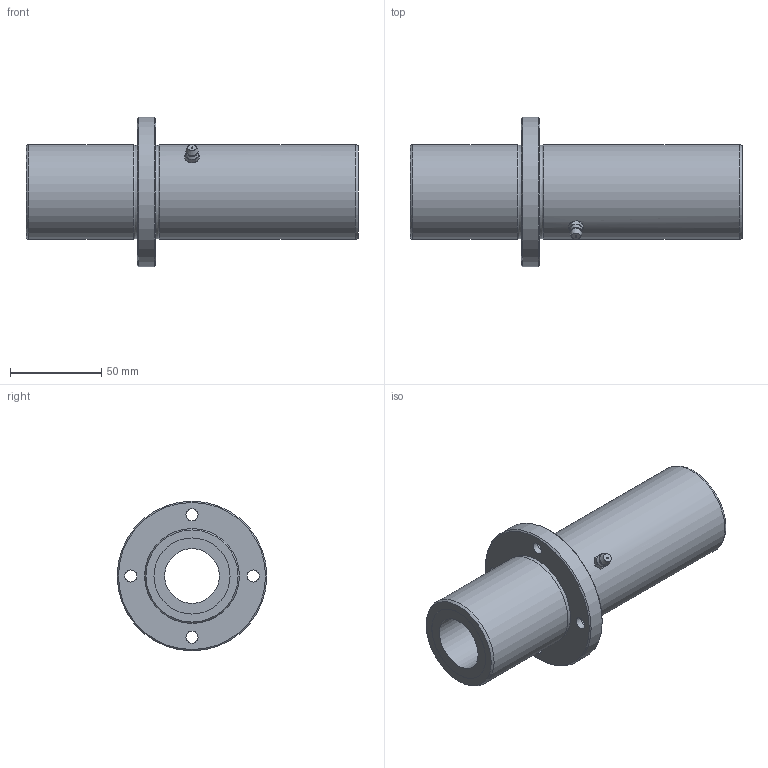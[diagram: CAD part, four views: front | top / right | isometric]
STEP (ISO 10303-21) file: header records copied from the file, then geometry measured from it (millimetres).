
FILE_DESCRIPTION((''),'2;1');
FILE_NAME('D:\製品 (図面)\カタログ用3D\リニアベアリング関連\STEP形式\LFLC\LFLC30.stp','2010-06-04T09:06:51',('Tsuchiya'),(''),'Autodesk Inventor 10','Autodesk Inventor 10','');
FILE_SCHEMA(('AUTOMOTIVE_DESIGN { 1 0 10303 214 1 1 1 1 }'));
Length unit declared in the file: millimetre
Products named in the file (1): LFLC30
Bounding box: 182 x 82 x 82 mm (x, y, z)
Volume: 286084.3 mm3; surface area: 57819.4 mm2
Topology: 1 solids, 1 shells, 59 faces, 117 edges, 70 vertices
Faces by surface type: plane 16, bspline 16, cone 15, cylinder 8, sphere 2, torus 2
Full cylindrical faces by diameter (mm): 30 x1, 41.7 x2, 52 x2, 82 x1
Entity records: 1803 total; most frequent: CARTESIAN_POINT 730, DIRECTION 210, ORIENTED_EDGE 184, EDGE_LOOP 104, AXIS2_PLACEMENT_3D 100, EDGE_CURVE 92, VERTEX_POINT 68, FACE_OUTER_BOUND 59
